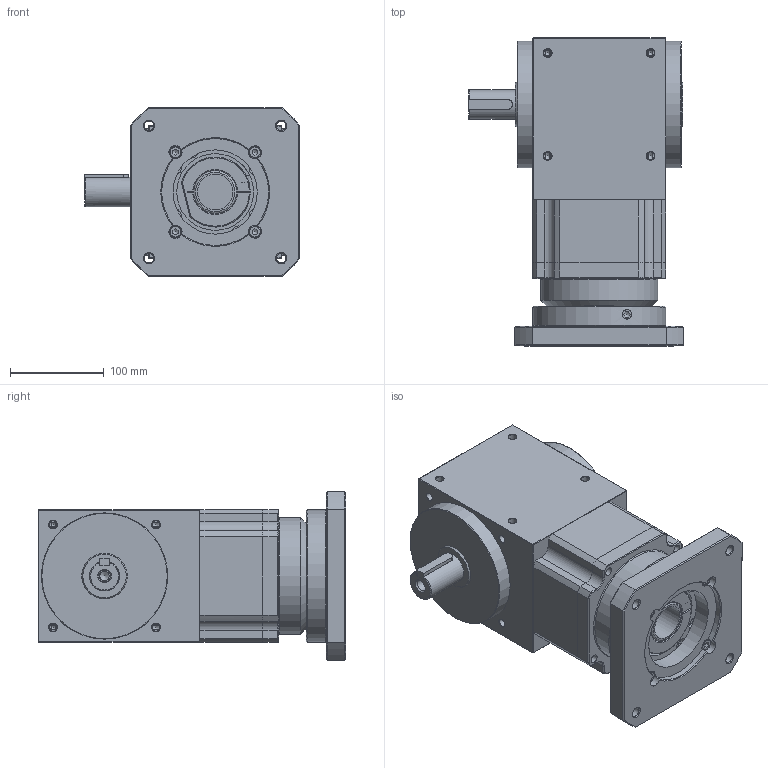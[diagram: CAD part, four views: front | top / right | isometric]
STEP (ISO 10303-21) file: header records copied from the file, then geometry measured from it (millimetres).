
FILE_DESCRIPTION((''),'2;1');
FILE_NAME('D:\유성\SBT 베벨기어박스\최종도면모음\3D\SBT142\SBT142PLS003~010K.stp','2014-05-20T18:50:17',('nagyu'),(''),'Autodesk Inventor 2013','Autodesk Inventor 2013','');
FILE_SCHEMA(('AUTOMOTIVE_DESIGN { 1 0 10303 214 1 1 1 1 }'));
Length unit declared in the file: millimetre
Products named in the file (1): SBT142PLS003~010K_Shrinkwrap_1
Bounding box: 229.5 x 329 x 180 mm (x, y, z)
Volume: 6541621.9 mm3; surface area: 344629.7 mm2
Topology: 1 solids, 10 shells, 576 faces, 1380 edges, 812 vertices
Faces by surface type: cylinder 239, plane 177, cone 128, torus 27, bspline 5
Full cylindrical faces by diameter (mm): 6.647 x4, 8 x5, 8.376 x20, 8.7 x10, 9 x4, 10 x3, 10.106 x6, 11 x1, 12.5 x1, 13 x5, 14 x10, 32 x1, 38 x1, 44.5 x1, 54.7 x1, 82 x1, 89 x2, 90 x1, 100 x1, 125 x1, 135 x2, 142 x1
Entity records: 16865 total; most frequent: CARTESIAN_POINT 4768, DIRECTION 2625, ORIENTED_EDGE 2206, AXIS2_PLACEMENT_3D 1144, EDGE_CURVE 1103, EDGE_LOOP 798, VERTEX_POINT 705, FACE_OUTER_BOUND 576
